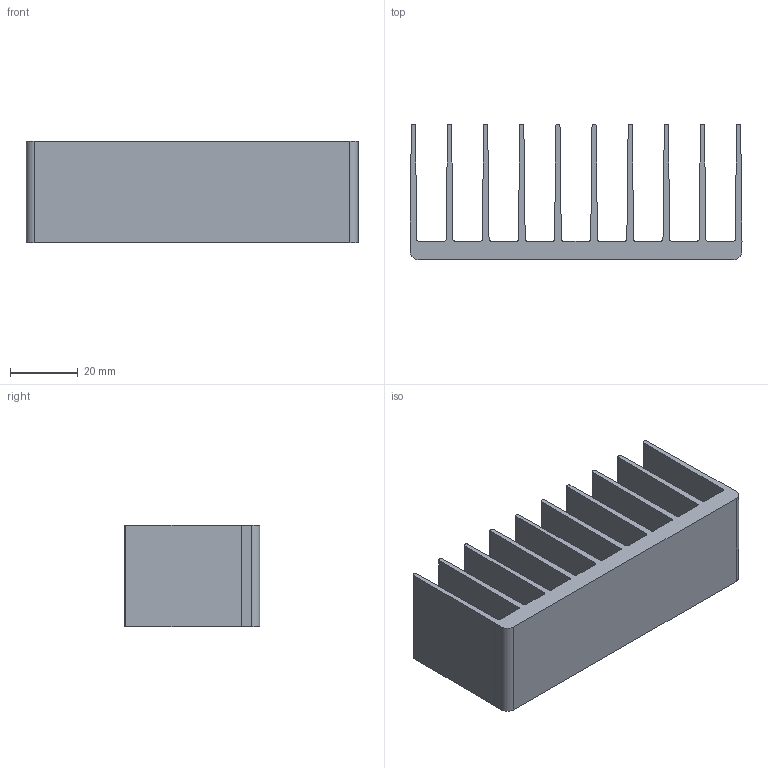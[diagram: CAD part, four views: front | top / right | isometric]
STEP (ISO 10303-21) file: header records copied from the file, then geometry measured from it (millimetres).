
FILE_DESCRIPTION (( 'STEP AP203' ), '1' );
FILE_NAME ('PR182.STEP', '2017-12-12T08:00:52', ( '' ), ( '' ), 'SwSTEP 2.0', 'SolidWorks 2017', '' );
FILE_SCHEMA (( 'CONFIG_CONTROL_DESIGN' ));
Length unit declared in the file: millimetre
Products named in the file (1): PR182
Bounding box: 98 x 40 x 30 mm (x, y, z)
Volume: 32646.4 mm3; surface area: 28545.3 mm2
Topology: 1 solids, 1 shells, 84 faces, 246 edges, 164 vertices
Faces by surface type: plane 44, cylinder 40
Entity records: 2887 total; most frequent: DIRECTION 496, CARTESIAN_POINT 495, ORIENTED_EDGE 492, EDGE_CURVE 246, LINE 166, VECTOR 166, AXIS2_PLACEMENT_3D 165, VERTEX_POINT 164
